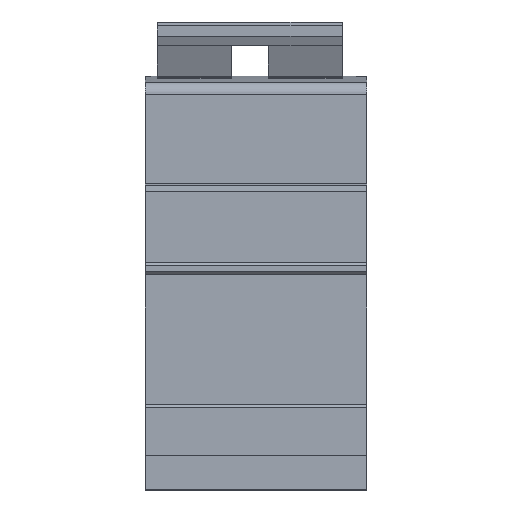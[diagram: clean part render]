
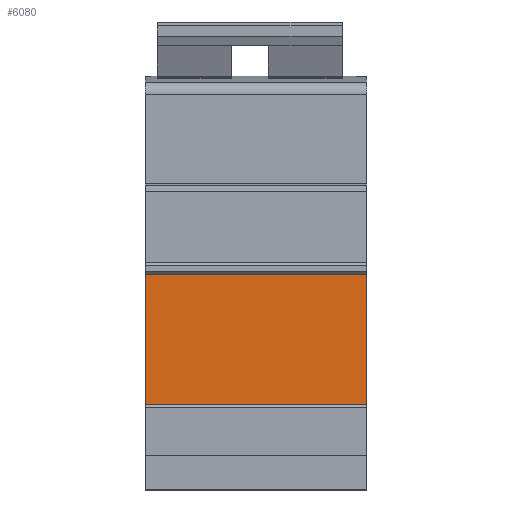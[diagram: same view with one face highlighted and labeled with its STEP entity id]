
A CAD part, front view. The second image highlights one B-rep face of the part: STEP entity #6080.
In plain terms, the highlighted planar face has unit normal (0, -1, 0).
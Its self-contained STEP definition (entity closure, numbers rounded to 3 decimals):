
#309=LINE('',#9799,#877);
#335=LINE('',#10024,#903);
#379=LINE('',#10115,#947);
#380=LINE('',#10117,#948);
#877=VECTOR('',#7634,10.);
#903=VECTOR('',#7918,10.);
#947=VECTOR('',#7974,10.);
#948=VECTOR('',#7977,10.);
#1651=FACE_OUTER_BOUND('',#2110,.T.);
#2110=EDGE_LOOP('',(#4783,#4784,#4785,#4786));
#2803=VERTEX_POINT('',#9796);
#2804=VERTEX_POINT('',#9798);
#2873=VERTEX_POINT('',#10021);
#2874=VERTEX_POINT('',#10023);
#3485=EDGE_CURVE('',#2803,#2804,#309,.T.);
#3575=EDGE_CURVE('',#2874,#2873,#335,.T.);
#3622=EDGE_CURVE('',#2873,#2804,#379,.T.);
#3623=EDGE_CURVE('',#2874,#2803,#380,.T.);
#4783=ORIENTED_EDGE('',*,*,#3575,.T.);
#4784=ORIENTED_EDGE('',*,*,#3622,.T.);
#4785=ORIENTED_EDGE('',*,*,#3485,.F.);
#4786=ORIENTED_EDGE('',*,*,#3623,.F.);
#5713=PLANE('',#6671);
#6080=ADVANCED_FACE('',(#1651),#5713,.T.);
#6671=AXIS2_PLACEMENT_3D('',#10116,#7975,#7976);
#7634=DIRECTION('',(0.,0.,-1.));
#7918=DIRECTION('',(0.,0.,-1.));
#7974=DIRECTION('',(1.,0.,0.));
#7975=DIRECTION('center_axis',(0.,-1.,0.));
#7976=DIRECTION('ref_axis',(0.,0.,-1.));
#7977=DIRECTION('',(1.,0.,0.));
#9796=CARTESIAN_POINT('',(36.,-45.241,5.4));
#9798=CARTESIAN_POINT('',(36.,-45.241,-15.712));
#9799=CARTESIAN_POINT('',(36.,-45.241,5.4));
#10021=CARTESIAN_POINT('',(0.,-45.241,-15.712));
#10023=CARTESIAN_POINT('',(0.,-45.241,5.4));
#10024=CARTESIAN_POINT('',(0.,-45.241,5.4));
#10115=CARTESIAN_POINT('',(0.,-45.241,-15.712));
#10116=CARTESIAN_POINT('Origin',(0.,-45.241,5.4));
#10117=CARTESIAN_POINT('',(0.,-45.241,5.4));
